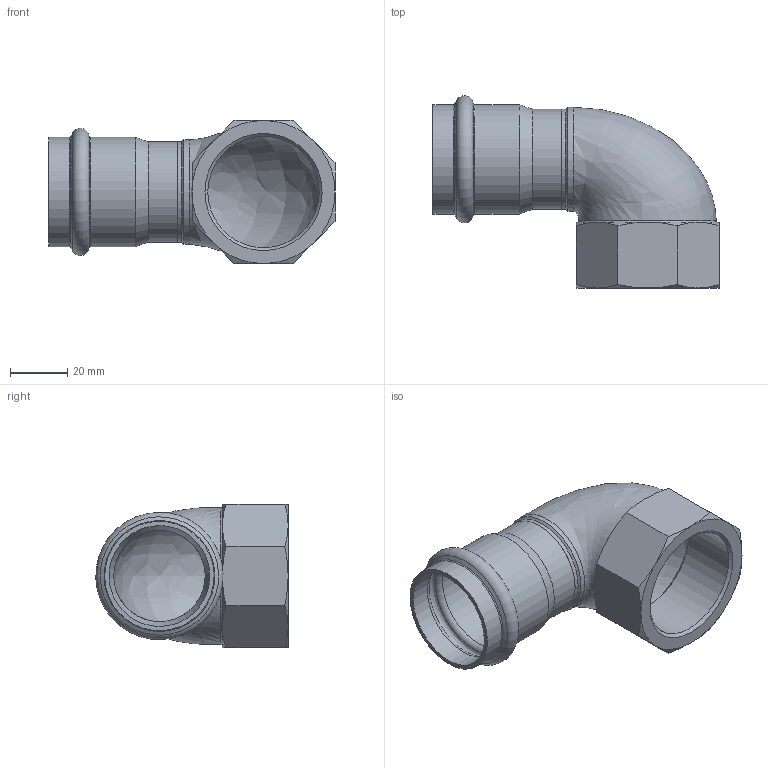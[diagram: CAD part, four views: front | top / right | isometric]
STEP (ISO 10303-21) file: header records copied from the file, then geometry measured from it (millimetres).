
FILE_DESCRIPTION((''),'2;1');
FILE_NAME('G:\Technics\CAD\Bauteile\035\69090IG35114(2).stp','2008-02-28T09:12:41',('herberg'),(''),'Autodesk Inventor 2008','Autodesk Inventor 2008','');
FILE_SCHEMA(('AUTOMOTIVE_DESIGN { 1 0 10303 214 1 1 1 1 }'));
Length unit declared in the file: millimetre
Products named in the file (3): 69090IG35114(2); G_69090IG35114(1); 6924335HM(1)
Assembly tree (2 placements, depth 2):
  69090IG35114(2)
    G_69090IG35114(1)
    6924335HM(1)
Bounding box: 100 x 67.23 x 50 mm (x, y, z)
Volume: 39199 mm3; surface area: 29977.8 mm2
Topology: 2 solids, 2 shells, 56 faces, 124 edges, 74 vertices
Faces by surface type: cone 22, plane 13, bspline 9, cylinder 9, torus 3
Full cylindrical faces by diameter (mm): 32 x2, 35 x2, 35.25 x2, 36.4 x1, 38.25 x2
Entity records: 2749 total; most frequent: CARTESIAN_POINT 1617, DIRECTION 224, ORIENTED_EDGE 200, AXIS2_PLACEMENT_3D 108, EDGE_CURVE 100, EDGE_LOOP 85, VERTEX_POINT 73, CIRCLE 56
